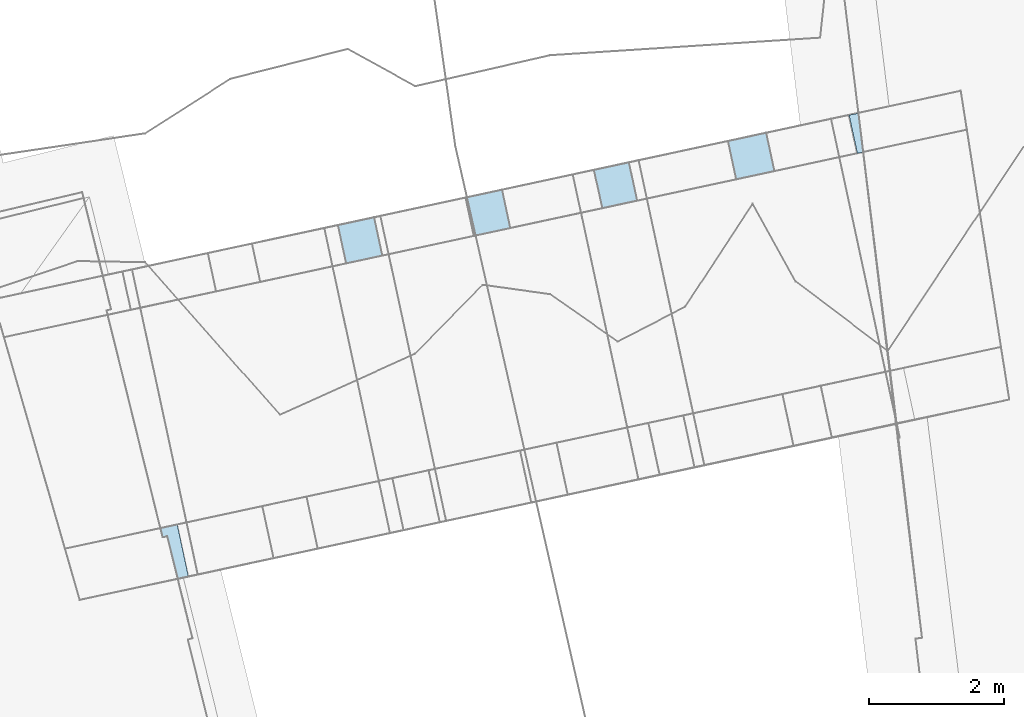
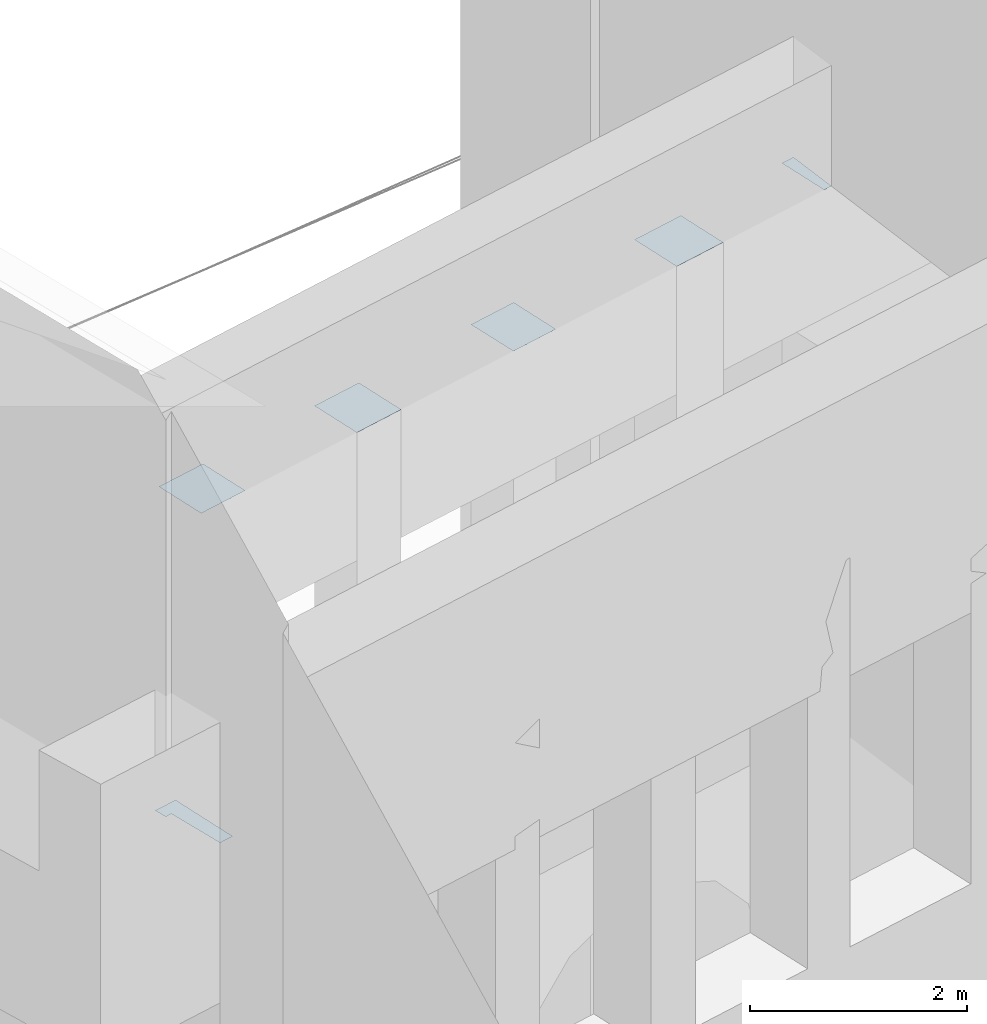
# Not in any storey, part 92 of 477: 6 roofs.
"""IFC4 building model written with IfcOpenShell, lengths in metres."""

from ifc_helpers import new_model, si_unit, frame, origin_with_axes, place, context, subcontext, project, spatial, polygons, element, save


model = new_model("IFC4")

# Units and contexts
model_context = context("Model", 3, precision=1e-05, world=origin_with_axes())
body_context = subcontext(model_context, "Body", "Model", "MODEL_VIEW")
ifc_project = project(units=[si_unit("AREAUNIT", "SQUARE_METRE"), si_unit("LENGTHUNIT", "METRE")], contexts=[model_context])

# Sites, building
site_1_placement = place(None, origin_with_axes())
site_1 = spatial("IfcSite", under=ifc_project, at=site_1_placement, Name="Topoexport Site")
site_2_placement = place(site_1_placement, origin_with_axes())
site_2 = spatial("IfcSite", under=site_1, at=site_2_placement, Name="TPX_BUILDINGS")
building_1_placement = place(site_2_placement, frame((211.8297320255, 101.9383160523, 526.7541), z_axis=(0.0, 0.0, 1.0), x_axis=(1.0, 0.0, 0.0)))
building_1 = spatial("IfcBuilding", under=site_2, at=building_1_placement, Name="Building 18", CompositionType="ELEMENT")

# Roofs
roof_1_placement = place(None, frame((211.8297320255, 101.9383160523, 526.7541), z_axis=(0.0, 0.0, 1.0), x_axis=(1.0, 0.0, 0.0)))
element("IfcRoof", 1, at=roof_1_placement, inside=building_1, Name="Roof 17", context=body_context, shape_type="Tessellation", body=[
    polygons([(286.4840000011, 298.3115000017, 29.1525), (287.1720000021, 297.8652000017, 29.1525), (286.6060000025, 297.7441000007, 29.1525), (287.0490000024, 298.433600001, 29.1525)], [[[3, 2, 1]], [[4, 1, 2]]]),
])
roof_2_placement = place(None, frame((211.8297320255, 101.9383160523, 526.7541), z_axis=(0.0, 0.0, 1.0), x_axis=(1.0, 0.0, 0.0)))
element("IfcRoof", 2, at=roof_2_placement, inside=building_1, Name="Roof 19", context=body_context, shape_type="Tessellation", body=[
    polygons([(280.8269999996, 296.4990000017, 29.1525), (280.7039999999, 297.066399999, 29.1525), (281.2400000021, 297.1816000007, 29.1525), (281.3619999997, 296.6152000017, 29.1525)], [[[3, 2, 1]], [[1, 4, 3]]]),
])
roof_3_placement = place(None, frame((211.8297320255, 101.9383160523, 526.7541), z_axis=(0.0, 0.0, 1.0), x_axis=(1.0, 0.0, 0.0)))
element("IfcRoof", 3, at=roof_3_placement, inside=building_1, Name="Roof 22", context=body_context, shape_type="Tessellation", body=[
    polygons([(285.0160000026, 297.995099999, 29.1525), (285.1380000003, 297.4287, 29.1525), (284.6220000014, 297.317400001, 29.1525), (284.4970000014, 297.8838, 29.1525)], [[[3, 2, 1]], [[1, 4, 3]]]),
])
roof_4_placement = place(None, frame((211.8297320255, 101.9383160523, 526.7541), z_axis=(0.0, 0.0, 1.0), x_axis=(1.0, 0.0, 0.0)))
element("IfcRoof", 4, at=roof_4_placement, inside=building_1, Name="Roof 25", context=body_context, shape_type="Tessellation", body=[
    polygons([(282.7180000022, 296.9061999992, 29.1525), (282.5950000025, 297.4736000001, 29.1525), (283.1359999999, 297.5898000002, 29.1525), (283.2580000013, 297.0223999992, 29.1525)], [[[3, 2, 1]], [[1, 4, 3]]]),
])

# Building
building_2_placement = place(site_2_placement, frame((516.5377320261, 359.7107160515, 536.6602), z_axis=(0.0, 0.0, 1.0), x_axis=(1.0, 0.0, 0.0)))
building_2 = spatial("IfcBuilding", under=site_2, at=building_2_placement, Name="Building 193", CompositionType="ELEMENT")

# Roof
roof_5_placement = place(None, frame((516.5377320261, 359.7107160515, 536.6602), z_axis=(0.0, 0.0, 1.0), x_axis=(1.0, 0.0, 0.0)))
element("IfcRoof", 5, at=roof_5_placement, inside=building_2, Name="Roof 30", context=body_context, shape_type="Tessellation", body=[
    polygons([(-16.4329999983, 40.9248000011, 19.2464), (-16.2919999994, 40.9550999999, 19.2464), (-16.3099999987, 40.3584000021, 19.2464), (-16.2210000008, 40.3770000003, 19.2464)], [[[3, 2, 1]], [[3, 4, 2]]]),
])

# Building
building_3_placement = place(site_2_placement, frame((373.5987320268, 371.2869160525, 536.8784), z_axis=(0.0, 0.0, 1.0), x_axis=(1.0, 0.0, 0.0)))
building_3 = spatial("IfcBuilding", under=site_2, at=building_3_placement, Name="Building 210", CompositionType="ELEMENT")

# Roof
roof_6_placement = place(None, frame((373.5987320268, 371.2869160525, 536.8784), z_axis=(0.0, 0.0, 1.0), x_axis=(1.0, 0.0, 0.0)))
element("IfcRoof", 6, at=roof_6_placement, inside=building_3, Name="Roof 0", context=body_context, shape_type="Tessellation", body=[
    polygons([(116.561999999, 22.4785000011, 19.0282), (116.4059999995, 23.1083999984, 19.0282), (116.7159999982, 22.5117000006, 19.0282), (116.550999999, 23.2813000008, 19.0282), (116.3040000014, 23.2276000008, 19.0282), (116.3379999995, 23.0918000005, 19.0282)], [[[3, 2, 1]], [[2, 3, 4]], [[5, 2, 4]], [[6, 2, 5]]]),
])

save(model, "model.ifc")
